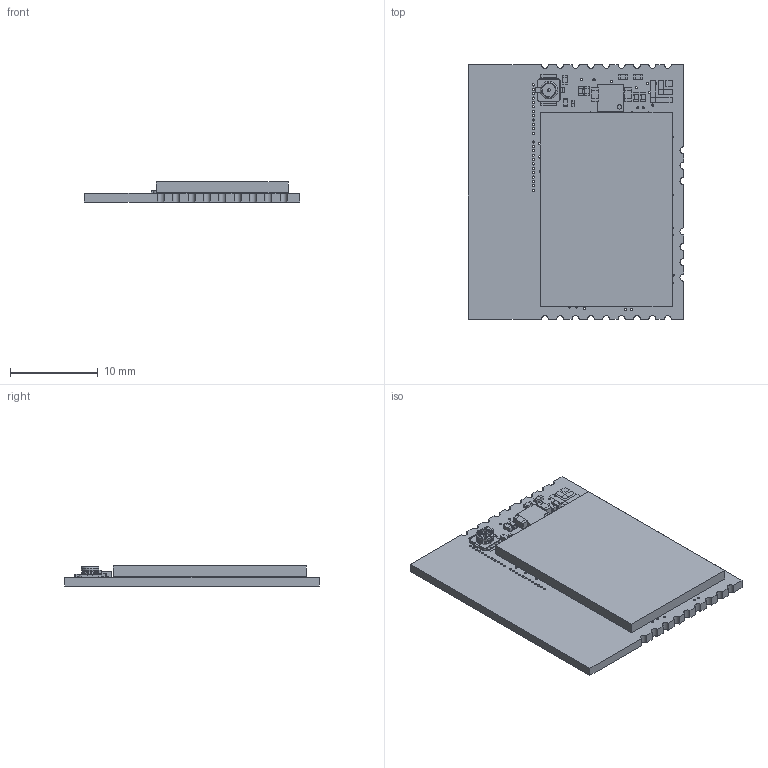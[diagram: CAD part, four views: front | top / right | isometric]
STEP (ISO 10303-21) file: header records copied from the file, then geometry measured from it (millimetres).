
FILE_DESCRIPTION(('FreeCAD Model'),'2;1');
FILE_NAME('C:/Users/Mark/Box Sync/Engineering/3D models/RLP3_Ant.step', '2015-08-04T13:48:54',('FreeCAD'),('FreeCAD'), 'Open CASCADE STEP processor 6.6','FreeCAD','Unknown');
FILE_SCHEMA(('AUTOMOTIVE_DESIGN_CC2 { 1 2 10303 214 -1 1 5 4 }'));
Length unit declared in the file: millimetre
Products named in the file (66): C28; PCB_Holes; PCB_Border; Board; C8; C29; C9; C36; C31; L6; L5; L4; C25; C22; C35; C17; C15; C16; C34; C20; X2; C27; C24; C26; C23; C21; L2; C19; U4; C3; C4; SHLD1; U1; R1; C2; D1; L3; J1; C7; X1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
Bounding box: 24.5 x 29 x 2.3 mm (x, y, z)
Volume: 1193.3 mm3; surface area: 2923.5 mm2
Topology: 70 solids, 191 shells, 3222 faces, 8556 edges, 5555 vertices
Faces by surface type: plane 1606, cylinder 1096, sphere 320, bspline 146, torus 52, revolution 2
Full cylindrical faces by diameter (mm): 0.254 x176
Entity records: 222031 total; most frequent: CARTESIAN_POINT 46349, DIRECTION 25911, ORIENTED_EDGE 15256, PCURVE 15256, DEFINITIONAL_REPRESENTATION 15256, LINE 14202, VECTOR 14202, EDGE_CURVE 7858
